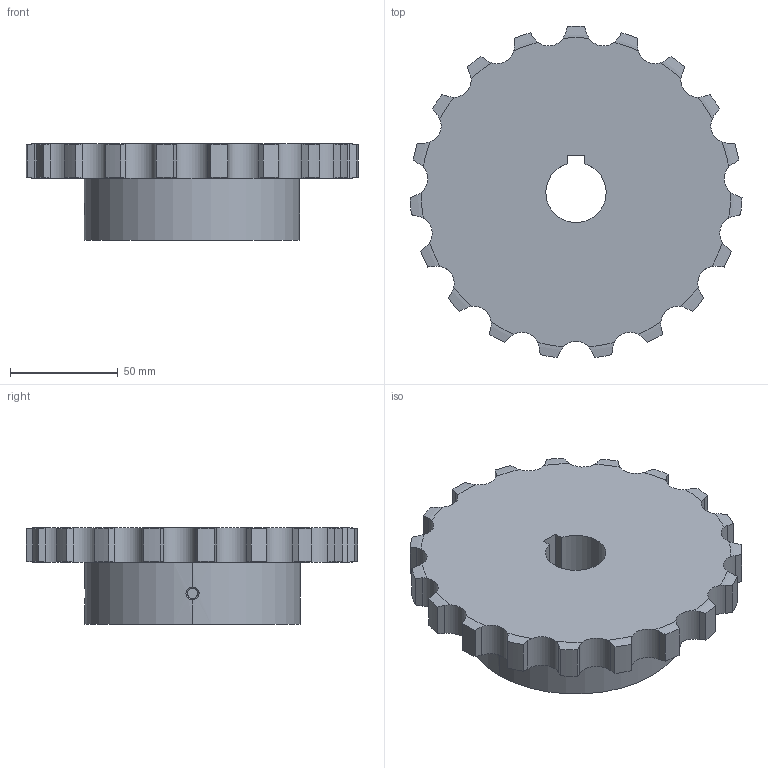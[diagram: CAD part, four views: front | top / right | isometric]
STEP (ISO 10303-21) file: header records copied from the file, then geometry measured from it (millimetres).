
FILE_DESCRIPTION((''),'2;1');
FILE_NAME('510-501-2819_PRT','2021-02-13T',('Brieden'),('Brieden'),'PRO/ENGINEER BY PARAMETRIC TECHNOLOGY CORPORATION, 2010160','PRO/ENGINEER BY PARAMETRIC TECHNOLOGY CORPORATION, 2010160','');
FILE_SCHEMA(('AUTOMOTIVE_DESIGN { 1 0 10303 214 1 1 1 1 }'));
Length unit declared in the file: millimetre
Products named in the file (1): 510-501-2819_PRT
Bounding box: 154.26 x 153.82 x 45 mm (x, y, z)
Volume: 468542.6 mm3; surface area: 55880.5 mm2
Topology: 1 solids, 1 shells, 135 faces, 387 edges, 256 vertices
Faces by surface type: cylinder 83, torus 38, plane 8, bspline 6
Entity records: 6660 total; most frequent: CARTESIAN_POINT 2115, ORIENTED_EDGE 774, DIRECTION 605, PRESENTATION_STYLE_ASSIGNMENT 388, STYLED_ITEM 388, CURVE_STYLE 387, EDGE_CURVE 387, VERTEX_POINT 256
